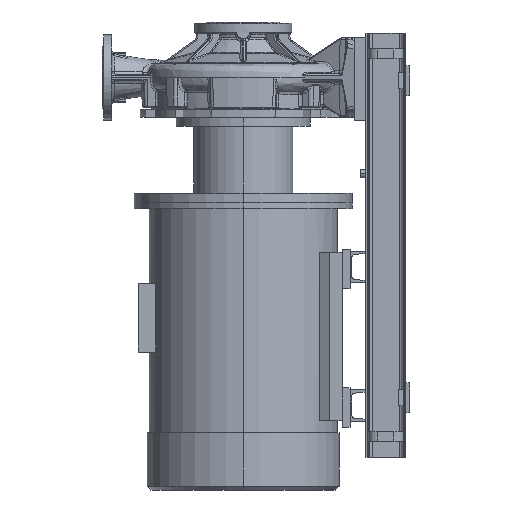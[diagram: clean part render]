
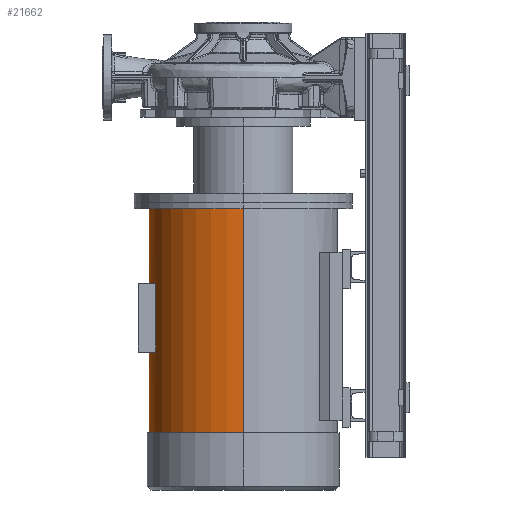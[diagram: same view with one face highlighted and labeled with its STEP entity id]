
A CAD part, left-side view. The second image highlights one B-rep face of the part: STEP entity #21662.
In plain terms, the highlighted cylindrical face has radius 237.5 mm (diameter 475 mm), a partial arc.
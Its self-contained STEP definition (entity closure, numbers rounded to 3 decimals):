
#2070 = ORIENTED_EDGE ( 'NONE', *, *, #60539, .T. ) ;
#2390 = EDGE_CURVE ( 'NONE', #68805, #42460, #83342, .T. ) ;
#3382 = VECTOR ( 'NONE', #40414, 1000. ) ;
#5210 = EDGE_CURVE ( 'NONE', #15008, #30758, #72358, .T. ) ;
#10818 = CARTESIAN_POINT ( 'NONE',  ( -87., 220.992, -1040.8 ) ) ;
#13316 = FACE_BOUND ( 'NONE', #38192, .T. ) ;
#15008 = VERTEX_POINT ( 'NONE', #53568 ) ;
#15358 = DIRECTION ( 'NONE',  ( 0., 0., -1. ) ) ;
#16817 = LINE ( 'NONE', #81710, #31638 ) ;
#17772 = CARTESIAN_POINT ( 'NONE',  ( 87., 220.992, -692.8 ) ) ;
#20429 = VERTEX_POINT ( 'NONE', #17772 ) ;
#21441 = CARTESIAN_POINT ( 'NONE',  ( 237.5, 0., -330.8 ) ) ;
#21662 = ADVANCED_FACE ( 'NONE', ( #13316, #39189 ), #66283, .T. ) ;
#22912 = CARTESIAN_POINT ( 'NONE',  ( 0., 0., -896.8 ) ) ;
#25985 = VERTEX_POINT ( 'NONE', #57942 ) ;
#30301 = EDGE_CURVE ( 'NONE', #25985, #78260, #52285, .T. ) ;
#30332 = CARTESIAN_POINT ( 'NONE',  ( 0., 0., -692.8 ) ) ;
#30758 = VERTEX_POINT ( 'NONE', #21441 ) ;
#31638 = VECTOR ( 'NONE', #34557, 1000. ) ;
#32633 = ORIENTED_EDGE ( 'NONE', *, *, #2390, .T. ) ;
#32721 = DIRECTION ( 'NONE',  ( 0., 0., -1. ) ) ;
#32725 = ORIENTED_EDGE ( 'NONE', *, *, #38888, .F. ) ;
#34557 = DIRECTION ( 'NONE',  ( 0., 0., -1. ) ) ;
#38192 = EDGE_LOOP ( 'NONE', ( #32633, #2070, #65072, #54518 ) ) ;
#38888 = EDGE_CURVE ( 'NONE', #15008, #25985, #71306, .T. ) ;
#39189 = FACE_OUTER_BOUND ( 'NONE', #61877, .T. ) ;
#39456 = AXIS2_PLACEMENT_3D ( 'NONE', #30332, #45527, #69293 ) ;
#40414 = DIRECTION ( 'NONE',  ( 0., 0., 1. ) ) ;
#40712 = EDGE_CURVE ( 'NONE', #92124, #68805, #44779, .T. ) ;
#42460 = VERTEX_POINT ( 'NONE', #75135 ) ;
#43704 = DIRECTION ( 'NONE',  ( -1., 0., 0. ) ) ;
#44779 = CIRCLE ( 'NONE', #77451, 237.5 ) ;
#45527 = DIRECTION ( 'NONE',  ( 0., 0., -1. ) ) ;
#46139 = CARTESIAN_POINT ( 'NONE',  ( -87., 220.992, -518.8 ) ) ;
#46359 = ORIENTED_EDGE ( 'NONE', *, *, #100084, .T. ) ;
#47226 = CARTESIAN_POINT ( 'NONE',  ( 0., 0., -330.8 ) ) ;
#48631 = CARTESIAN_POINT ( 'NONE',  ( 87., 220.992, -518.8 ) ) ;
#51541 = AXIS2_PLACEMENT_3D ( 'NONE', #62908, #89982, #80742 ) ;
#52014 = AXIS2_PLACEMENT_3D ( 'NONE', #22912, #15358, #93503 ) ;
#52285 = CIRCLE ( 'NONE', #52014, 237.5 ) ;
#53568 = CARTESIAN_POINT ( 'NONE',  ( -237.5, 0., -330.8 ) ) ;
#54518 = ORIENTED_EDGE ( 'NONE', *, *, #40712, .T. ) ;
#56040 = ORIENTED_EDGE ( 'NONE', *, *, #5210, .T. ) ;
#57942 = CARTESIAN_POINT ( 'NONE',  ( -237.5, 0., -896.8 ) ) ;
#59662 = CIRCLE ( 'NONE', #39456, 237.5 ) ;
#60539 = EDGE_CURVE ( 'NONE', #42460, #20429, #59662, .T. ) ;
#61184 = VECTOR ( 'NONE', #98200, 1000. ) ;
#61476 = VECTOR ( 'NONE', #95457, 1000. ) ;
#61877 = EDGE_LOOP ( 'NONE', ( #56040, #46359, #101016, #32725 ) ) ;
#62848 = CARTESIAN_POINT ( 'NONE',  ( -237.5, 0., -1040.8 ) ) ;
#62908 = CARTESIAN_POINT ( 'NONE',  ( 0., 0., -1040.8 ) ) ;
#65072 = ORIENTED_EDGE ( 'NONE', *, *, #69299, .T. ) ;
#65207 = CARTESIAN_POINT ( 'NONE',  ( 237.5, 0., -896.8 ) ) ;
#66283 = CYLINDRICAL_SURFACE ( 'NONE', #51541, 237.5 ) ;
#68805 = VERTEX_POINT ( 'NONE', #46139 ) ;
#69293 = DIRECTION ( 'NONE',  ( 1., 0., 0. ) ) ;
#69299 = EDGE_CURVE ( 'NONE', #20429, #92124, #76109, .T. ) ;
#71306 = LINE ( 'NONE', #62848, #61476 ) ;
#71406 = CARTESIAN_POINT ( 'NONE',  ( 87., 220.992, -1040.8 ) ) ;
#72358 = CIRCLE ( 'NONE', #101117, 237.5 ) ;
#74649 = CARTESIAN_POINT ( 'NONE',  ( 0., 0., -518.8 ) ) ;
#75135 = CARTESIAN_POINT ( 'NONE',  ( -87., 220.992, -692.8 ) ) ;
#76109 = LINE ( 'NONE', #71406, #3382 ) ;
#77451 = AXIS2_PLACEMENT_3D ( 'NONE', #74649, #97363, #43704 ) ;
#78260 = VERTEX_POINT ( 'NONE', #65207 ) ;
#80742 = DIRECTION ( 'NONE',  ( -1., 0., 0. ) ) ;
#81710 = CARTESIAN_POINT ( 'NONE',  ( 237.5, 0., -1040.8 ) ) ;
#83342 = LINE ( 'NONE', #10818, #61184 ) ;
#89982 = DIRECTION ( 'NONE',  ( 0., 0., -1. ) ) ;
#92124 = VERTEX_POINT ( 'NONE', #48631 ) ;
#93503 = DIRECTION ( 'NONE',  ( -1., 0., 0. ) ) ;
#95457 = DIRECTION ( 'NONE',  ( 0., 0., -1. ) ) ;
#95681 = DIRECTION ( 'NONE',  ( -1., 0., 0. ) ) ;
#97363 = DIRECTION ( 'NONE',  ( 0., 0., 1. ) ) ;
#98200 = DIRECTION ( 'NONE',  ( 0., 0., -1. ) ) ;
#100084 = EDGE_CURVE ( 'NONE', #30758, #78260, #16817, .T. ) ;
#101016 = ORIENTED_EDGE ( 'NONE', *, *, #30301, .F. ) ;
#101117 = AXIS2_PLACEMENT_3D ( 'NONE', #47226, #32721, #95681 ) ;
